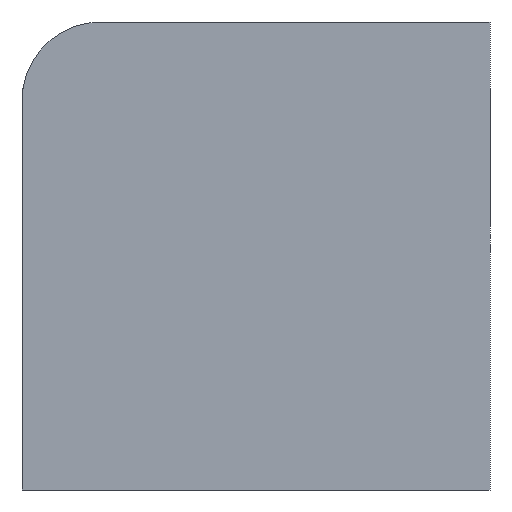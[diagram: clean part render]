
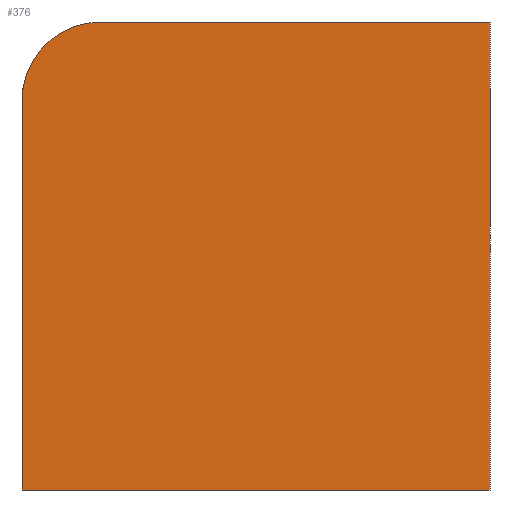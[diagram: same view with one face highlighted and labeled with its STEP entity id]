
A CAD part, front view. The second image highlights one B-rep face of the part: STEP entity #376.
In plain terms, the highlighted planar face has unit normal (0, -1, 0).
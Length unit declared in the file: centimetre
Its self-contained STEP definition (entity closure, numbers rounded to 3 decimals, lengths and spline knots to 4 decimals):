
#35 = ORIENTED_EDGE ( 'NONE', *, *, #316, .F. ) ;
#52 = VERTEX_POINT ( 'NONE', #786 ) ;
#82 = DIRECTION ( 'NONE',  ( 1., 0., 0. ) ) ;
#88 = VERTEX_POINT ( 'NONE', #882 ) ;
#136 = CARTESIAN_POINT ( 'NONE',  ( 167.491, 0., 1000. ) ) ;
#146 = CIRCLE ( 'NONE', #830, 167.491 ) ;
#160 = VECTOR ( 'NONE', #792, 100. ) ;
#171 = ORIENTED_EDGE ( 'NONE', *, *, #181, .F. ) ;
#181 = EDGE_CURVE ( 'NONE', #240, #88, #475, .T. ) ;
#187 = EDGE_LOOP ( 'NONE', ( #171, #745, #640, #448, #35 ) ) ;
#227 = CARTESIAN_POINT ( 'NONE',  ( 1000., 0., 0. ) ) ;
#238 = DIRECTION ( 'NONE',  ( 0., 0., 1. ) ) ;
#240 = VERTEX_POINT ( 'NONE', #136 ) ;
#250 = LINE ( 'NONE', #514, #351 ) ;
#251 = DIRECTION ( 'NONE',  ( 0., 0., 1. ) ) ;
#253 = VERTEX_POINT ( 'NONE', #561 ) ;
#282 = CARTESIAN_POINT ( 'NONE',  ( 0., 0., 1000. ) ) ;
#300 = CARTESIAN_POINT ( 'NONE',  ( 167.491, 0., 832.509 ) ) ;
#303 = CARTESIAN_POINT ( 'NONE',  ( 0., 0., 0. ) ) ;
#316 = EDGE_CURVE ( 'NONE', #88, #713, #250, .T. ) ;
#351 = VECTOR ( 'NONE', #777, 100. ) ;
#356 = FACE_OUTER_BOUND ( 'NONE', #187, .T. ) ;
#376 = ADVANCED_FACE ( 'NONE', ( #356 ), #638, .F. ) ;
#448 = ORIENTED_EDGE ( 'NONE', *, *, #732, .T. ) ;
#451 = DIRECTION ( 'NONE',  ( 0., -1., 0. ) ) ;
#454 = DIRECTION ( 'NONE',  ( 0., 0., -1. ) ) ;
#475 = LINE ( 'NONE', #282, #778 ) ;
#514 = CARTESIAN_POINT ( 'NONE',  ( 1000., 0., 1000. ) ) ;
#526 = CARTESIAN_POINT ( 'NONE',  ( 0., 0., 1000. ) ) ;
#561 = CARTESIAN_POINT ( 'NONE',  ( 0., 0., 832.509 ) ) ;
#638 = PLANE ( 'NONE',  #828 ) ;
#640 = ORIENTED_EDGE ( 'NONE', *, *, #851, .T. ) ;
#648 = VECTOR ( 'NONE', #454, 100. ) ;
#713 = VERTEX_POINT ( 'NONE', #227 ) ;
#730 = DIRECTION ( 'NONE',  ( 0., 1., 0. ) ) ;
#732 = EDGE_CURVE ( 'NONE', #52, #713, #740, .T. ) ;
#740 = LINE ( 'NONE', #303, #160 ) ;
#745 = ORIENTED_EDGE ( 'NONE', *, *, #843, .T. ) ;
#777 = DIRECTION ( 'NONE',  ( 0., 0., -1. ) ) ;
#778 = VECTOR ( 'NONE', #82, 100. ) ;
#786 = CARTESIAN_POINT ( 'NONE',  ( 0., 0., 0. ) ) ;
#792 = DIRECTION ( 'NONE',  ( 1., 0., 0. ) ) ;
#802 = CARTESIAN_POINT ( 'NONE',  ( 0., 0., 1000. ) ) ;
#828 = AXIS2_PLACEMENT_3D ( 'NONE', #802, #730, #238 ) ;
#830 = AXIS2_PLACEMENT_3D ( 'NONE', #300, #451, #251 ) ;
#843 = EDGE_CURVE ( 'NONE', #240, #253, #146, .T. ) ;
#851 = EDGE_CURVE ( 'NONE', #253, #52, #860, .T. ) ;
#860 = LINE ( 'NONE', #526, #648 ) ;
#882 = CARTESIAN_POINT ( 'NONE',  ( 1000., 0., 1000. ) ) ;
